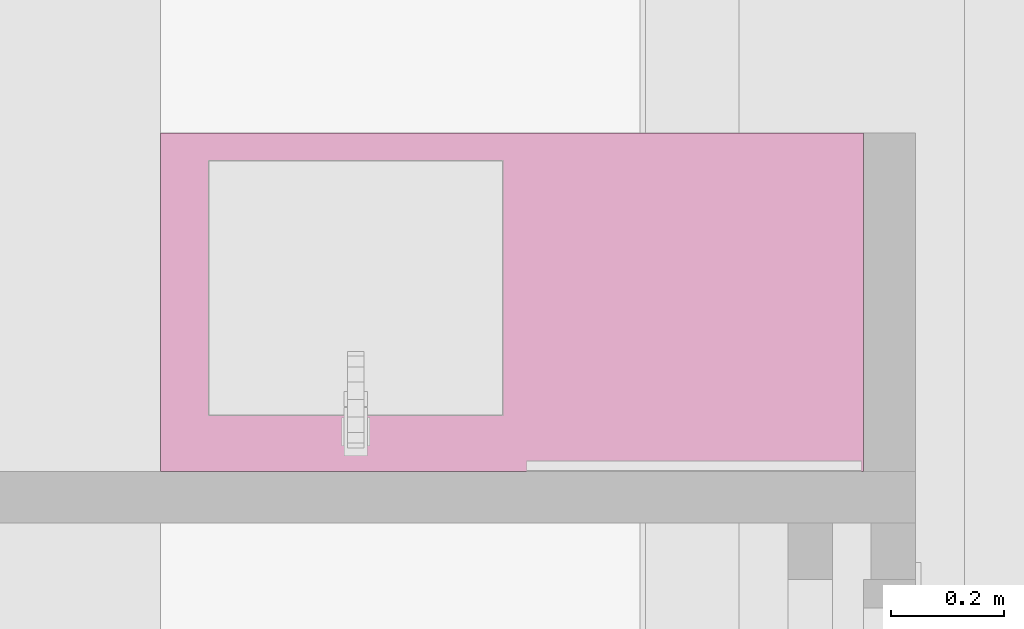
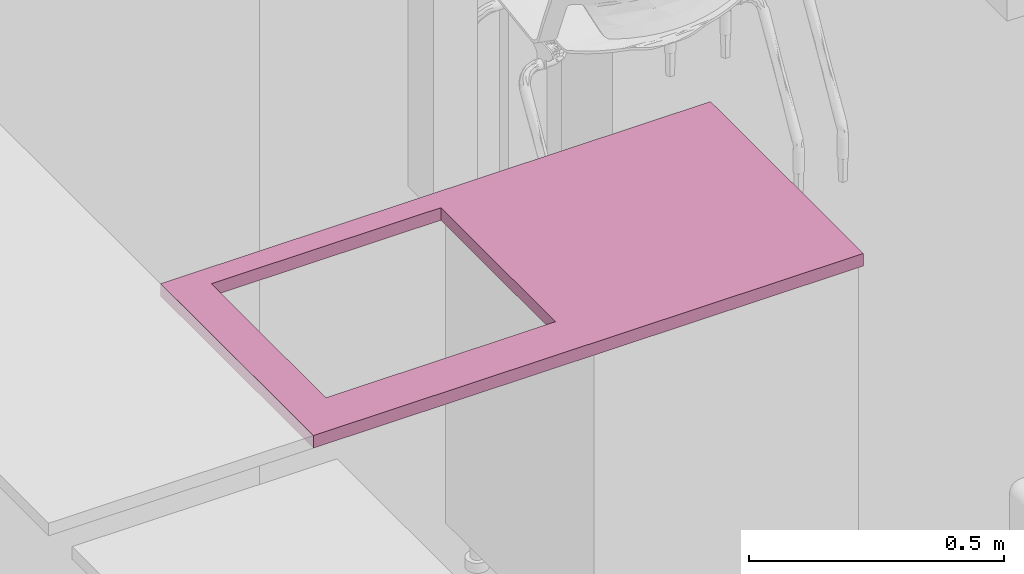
# One storey, part 91 of 125: 1 furnishing.
"""IFC2X3 building model written with IfcOpenShell, lengths in millimetres."""

import ifcopenshell
import ifcopenshell.guid

model = None  # the IFC model being written
_history = None  # IfcOwnerHistory: only IFC2X3 demands one
_inside = {}  # id of a spatial element -> (the spatial element, [elements in it])
_under = {}  # id of a project, library or spatial element -> (it, [spatial elements below it])
_declared = {}  # id of a project -> (the project, [libraries it declares])
_typed = {}  # id of a type object -> (the type object, [elements of that type])
_made_of = {}  # id of a material, layer set ... -> (it, [elements and type objects made of it])


def new_model(schema):
    """Start an empty IFC model of exactly this schema.

    Asked for "IFC4X3", IfcOpenShell would pick the latest addendum, in which some entities
    have other attributes; the version numbers below select the first issue.
    IFC2X3 requires an IfcOwnerHistory on every rooted entity: one is made here for all.
    """
    global model, _history
    if schema == "IFC4X3":
        model = ifcopenshell.file(schema_version=(4, 3, 0, 0))
    else:
        model = ifcopenshell.file(schema=schema)
    _inside.clear()
    _under.clear()
    _declared.clear()
    _typed.clear()
    _made_of.clear()
    _history = None
    if model.schema == "IFC2X3":
        org = make("IfcOrganization", Name="unknown")
        user = make(
            "IfcPersonAndOrganization",
            ThePerson=make("IfcPerson", FamilyName="unknown"),
            TheOrganization=org,
        )
        app = make(
            "IfcApplication",
            ApplicationDeveloper=org,
            Version="unknown",
            ApplicationFullName="unknown",
            ApplicationIdentifier="unknown",
        )
        _history = make(
            "IfcOwnerHistory",
            OwningUser=user,
            OwningApplication=app,
            ChangeAction="ADDED",
            CreationDate=0,
        )
    return model


def make(cls, **values):
    """One entity of the class cls with the attributes given. An attribute that is None is left unset."""
    return model.create_entity(
        cls, **{name: value for name, value in values.items() if value is not None}
    )


def entity(cls, *values):
    """Any entity or typed value of the class cls, its attributes in the order of the schema. None: left unset."""
    e = model.create_entity(cls)
    for i, value in enumerate(values):
        if value is not None:
            e[i] = value
    return e


def rooted(cls, **values):
    """An entity with a GlobalId (a new one), such as an element, a storey or a relation."""
    return make(cls, GlobalId=ifcopenshell.guid.new(), OwnerHistory=_history, **values)


def si_unit(unit_type, name, prefix=None):
    """IfcSIUnit, for example si_unit("LENGTHUNIT", "METRE", prefix="MILLI")."""
    return make("IfcSIUnit", UnitType=unit_type, Prefix=prefix, Name=name)


def converted_unit(unit_type, name, factor, base, dimensions=None, offset=None):
    """IfcConversionBasedUnit, such as the inch: factor (a typed value) times the base unit."""
    return make(
        "IfcConversionBasedUnit"
        if offset is None
        else "IfcConversionBasedUnitWithOffset",
        ConversionOffset=offset,
        Dimensions=None
        if dimensions is None
        else entity("IfcDimensionalExponents", *dimensions),
        UnitType=unit_type,
        Name=name,
        ConversionFactor=make(
            "IfcMeasureWithUnit", ValueComponent=factor, UnitComponent=base
        ),
    )


def assignment(units):
    """IfcUnitAssignment: the units of a project."""
    return None if units is None else make("IfcUnitAssignment", Units=units)


def point(xyz):
    """IfcCartesianPoint."""
    return None if xyz is None else make("IfcCartesianPoint", Coordinates=xyz)


def direction(xyz):
    """IfcDirection."""
    return None if xyz is None else make("IfcDirection", DirectionRatios=xyz)


def frame(location, z_axis=None, x_axis=None):
    """IfcAxis2Placement3D, a coordinate frame: its origin and axes. An axis left out is left unset."""
    return make(
        "IfcAxis2Placement3D",
        Location=point(location),
        Axis=direction(z_axis),
        RefDirection=direction(x_axis),
    )


def origin():
    """The frame at (0, 0, 0) with its axes left unset."""
    return frame((0.0, 0.0, 0.0))


def place(relative_to, where):
    """IfcLocalPlacement: puts the frame where relative to a parent placement (None: the world)."""
    return make(
        "IfcLocalPlacement", PlacementRelTo=relative_to, RelativePlacement=where
    )


def context(
    kind, dimensions, precision=None, world=None, true_north=None, identifier=None
):
    """IfcGeometricRepresentationContext, for example the 3D "Model" context."""
    return make(
        "IfcGeometricRepresentationContext",
        ContextIdentifier=identifier,
        ContextType=kind,
        CoordinateSpaceDimension=dimensions,
        Precision=precision,
        WorldCoordinateSystem=world,
        TrueNorth=true_north,
    )


def subcontext(parent, identifier, kind, view, scale=None):
    """IfcGeometricRepresentationSubContext, for example "Body" below "Model"."""
    return make(
        "IfcGeometricRepresentationSubContext",
        ContextIdentifier=identifier,
        ContextType=kind,
        ParentContext=parent,
        TargetScale=scale,
        TargetView=view,
    )


def project(units=None, contexts=None):
    """IfcProject with its units and contexts."""
    return rooted(
        "IfcProject",
        Name="project",
        RepresentationContexts=contexts,
        UnitsInContext=assignment(units),
    )


def spatial(cls, under=None, at=None, **own):
    """A site, building, storey or space (cls), placed at a placement, below another one or the project."""
    s = rooted(cls, ObjectPlacement=at, **own)
    if under is not None:
        _under.setdefault(under.id(), (under, []))[1].append(s)
    return s


def polyline(points):
    """IfcPolyline through the points."""
    return make("IfcPolyline", Points=[point(p) for p in points])


def outline(outer, holes=None, kind="AREA"):
    """IfcArbitraryClosedProfileDef: a profile drawn as a closed curve; with holes, ...WithVoids."""
    if holes is None:
        return make("IfcArbitraryClosedProfileDef", ProfileType=kind, OuterCurve=outer)
    return make(
        "IfcArbitraryProfileDefWithVoids",
        ProfileType=kind,
        OuterCurve=outer,
        InnerCurves=holes,
    )


def extrude(swept, where, along, depth):
    """IfcExtrudedAreaSolid: the profile swept, set in the frame where, extruded along a direction by depth."""
    return make(
        "IfcExtrudedAreaSolid",
        SweptArea=swept,
        Position=where,
        ExtrudedDirection=direction(along),
        Depth=depth,
    )


def shape(context_of_items, identifier, shape_type, items):
    """IfcShapeRepresentation: the items that make up one representation, for example the "Body"."""
    return make(
        "IfcShapeRepresentation",
        ContextOfItems=context_of_items,
        RepresentationIdentifier=identifier,
        RepresentationType=shape_type,
        Items=items,
    )


def source(mapping_origin, context_of_items, identifier, shape_type, items):
    """IfcRepresentationMap: a shape defined once, which mapped items show again and again."""
    return make(
        "IfcRepresentationMap",
        MappingOrigin=mapping_origin,
        MappedRepresentation=shape(context_of_items, identifier, shape_type, items),
    )


def transform(
    local_origin,
    x_axis=None,
    y_axis=None,
    z_axis=None,
    scale=None,
    scale2=None,
    scale3=None,
    uniform=True,
):
    """IfcCartesianTransformationOperator3D, or its non-uniform kind. x_axis, y_axis, z_axis: its Axis1, 2, 3."""
    if uniform:
        return make(
            "IfcCartesianTransformationOperator3D",
            Axis1=direction(x_axis),
            Axis2=direction(y_axis),
            LocalOrigin=point(local_origin),
            Scale=scale,
            Axis3=direction(z_axis),
        )
    return make(
        "IfcCartesianTransformationOperator3DnonUniform",
        Axis1=direction(x_axis),
        Axis2=direction(y_axis),
        LocalOrigin=point(local_origin),
        Scale=scale,
        Axis3=direction(z_axis),
        Scale2=scale2,
        Scale3=scale3,
    )


def mapped(mapping_source, mapping_target):
    """IfcMappedItem: shows the shape of a source again, moved by a transform."""
    return make(
        "IfcMappedItem", MappingSource=mapping_source, MappingTarget=mapping_target
    )


def material(Name=None, Category=None):
    """IfcMaterial."""
    return make("IfcMaterial", Name=Name, Category=Category)


def made_of(thing, what):
    """Note that an element or type object is made of a material, layer set ...; save() writes the relation."""
    if what is not None:
        _made_of.setdefault(what.id(), (what, []))[1].append(thing)
    return thing


def type_object(cls, material=None, **own):
    """A type object (cls), such as IfcWallType, which elements share."""
    return made_of(rooted(cls, **own), material)


def type_shapes(of_type, sources):
    """Give a type object the sources (RepresentationMaps) that its elements show as mapped items."""
    of_type.RepresentationMaps = sources


def element(
    cls,
    number,
    at=None,
    inside=None,
    cuts=None,
    type_object=None,
    material=None,
    context=None,
    identifier="Body",
    shape_type=None,
    held_by="IfcProductDefinitionShape",
    body=None,
    shapes=None,
    **own,
):
    """One element of the class cls, such as IfcWall. Its Tag is "e" and its number.

    at: its placement. inside: the storey or other place that contains it. cuts: it is an
    opening in that element (IfcRelVoidsElement). A single representation is given by context,
    identifier, shape_type and body (its items); several are given by shapes. held_by: the class
    of the entity that holds the representations. save() writes the other relations.
    """
    e = rooted(cls, Tag="e%d" % number, ObjectPlacement=at, **own)
    if body is not None:
        shapes = [shape(context, identifier, shape_type, body)]
    if shapes is not None:
        e.Representation = make(held_by, Representations=shapes)
    if inside is not None:
        _inside.setdefault(inside.id(), (inside, []))[1].append(e)
    if cuts is not None:
        rooted(
            "IfcRelVoidsElement", RelatingBuildingElement=cuts, RelatedOpeningElement=e
        )
    if type_object is not None:
        _typed.setdefault(type_object.id(), (type_object, []))[1].append(e)
    return made_of(e, material)


def aggregate(whole, parts):
    """IfcRelAggregates: a whole, such as a stair, and the parts it consists of."""
    return rooted("IfcRelAggregates", RelatingObject=whole, RelatedObjects=parts)


def save(model, path):
    """Write the relations noted so far, then the file.

    IfcRelAggregates (storeys below a building ...), IfcRelContainedInSpatialStructure (elements
    in a storey), IfcRelDefinesByType, IfcRelAssociatesMaterial and IfcRelDeclares: one each for
    every whole, place, type object, material and project.
    """
    for whole, parts in _under.values():
        aggregate(whole, parts)
    for where, things in _inside.values():
        rooted(
            "IfcRelContainedInSpatialStructure",
            RelatedElements=things,
            RelatingStructure=where,
        )
    for kind, things in _typed.values():
        rooted("IfcRelDefinesByType", RelatedObjects=things, RelatingType=kind)
    for what, things in _made_of.values():
        rooted("IfcRelAssociatesMaterial", RelatedObjects=things, RelatingMaterial=what)
    for by, libraries in _declared.values():
        rooted("IfcRelDeclares", RelatingContext=by, RelatedDefinitions=libraries)
    model.write(path)


model = new_model("IFC2X3")

# Units and contexts
model_context = context("Model", 3, precision=0.01, world=origin(), true_north=direction((6.123233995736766e-17, 1.0)))
plan_context = context("Plan", 3, precision=0.01, world=origin(), true_north=direction((6.123233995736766e-17, 1.0)))
body_context = subcontext(model_context, "Body", "Model", "MODEL_VIEW")
ifc_project = project(units=[si_unit("LENGTHUNIT", "METRE", prefix="MILLI"), converted_unit("PLANEANGLEUNIT", "DEGREE", entity("IfcPlaneAngleMeasure", 0.017453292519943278), si_unit("PLANEANGLEUNIT", "RADIAN"), dimensions=[0, 0, 0, 0, 0, 0, 0]), si_unit("AREAUNIT", "SQUARE_METRE")], contexts=[model_context, plan_context])

# Site, building, storey, space
site_placement = place(None, origin())
site = spatial("IfcSite", under=ifc_project, at=site_placement, Name="Default", CompositionType="ELEMENT")
building_placement = place(site_placement, origin())
building = spatial("IfcBuilding", under=site, at=building_placement, CompositionType="ELEMENT")
storey_placement = place(building_placement, frame((0.0, 0.0, 3125.0)))
storey = spatial("IfcBuildingStorey", under=building, at=storey_placement, Name="2K", CompositionType="ELEMENT", Elevation=3125.0)
space_placement = place(storey_placement, origin())
space = spatial("IfcSpace", under=storey, at=space_placement, Name="2-3.2", CompositionType="ELEMENT", InteriorOrExteriorSpace="INTERNAL")

# Furnishing
ifc_material = material(Name="<Unnamed>")
furniture_type = type_object("IfcFurnitureType", Name="HR_Casework_Work-surface_Generic_Rectangular_v1:Default", AssemblyPlace="NOTDEFINED", material=ifc_material)
shared_shape = source(origin(), body_context, "Body", "SweptSolid", [
    extrude(outline(polyline([(-623.0, -300.0), (623.0, -300.0), (623.0, 300.0), (-623.0, 300.0), (-623.0, -300.0)]), holes=[polyline([(17.0, -250.0), (17.0, 200.0), (537.0, 200.0), (537.0, -250.0), (17.0, -250.0)])]), frame((11373.0, 12240.0, 870.0), z_axis=(0.0, 0.0, 1.0), x_axis=(-1.0, 0.0, 0.0)), (0.0, 0.0, 1.0), 29.999999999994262),
])
type_shapes(furniture_type, [shared_shape])
furnishing_placement = place(space_placement, frame((0.0, 0.0, 3170.0)))
element("IfcFurnishingElement", 1, at=furnishing_placement, inside=space, type_object=furniture_type, material=ifc_material, Name="HR_Casework_Work-surface_Generic_Rectangular_v1:Default", ObjectType="HR_Casework_Work-surface_Generic_Rectangular_v1:Default", context=body_context, shape_type="MappedRepresentation", body=[
    mapped(shared_shape, transform((0.0, 0.0, 0.0), scale=1.0)),
])

save(model, "model.ifc")
